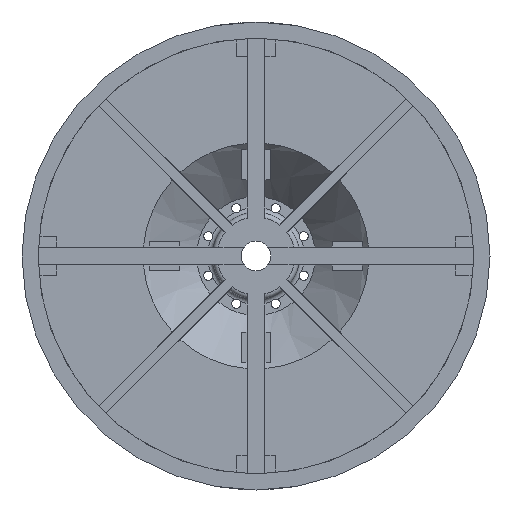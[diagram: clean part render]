
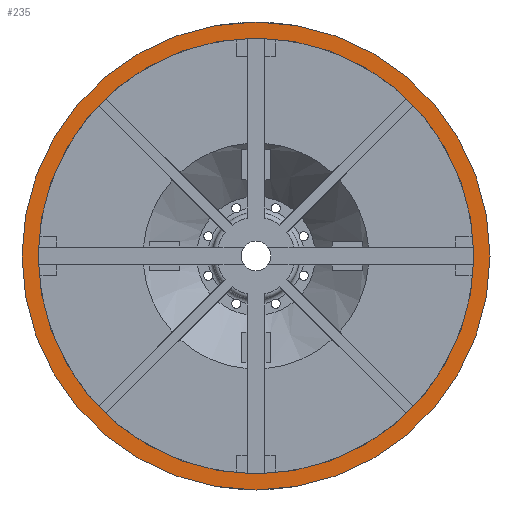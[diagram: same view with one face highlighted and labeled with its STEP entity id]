
A CAD part, front view. The second image highlights one B-rep face of the part: STEP entity #235.
In plain terms, the highlighted planar face has unit normal (0, -1, 0).
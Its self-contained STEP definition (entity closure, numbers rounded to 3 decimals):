
#235 = ADVANCED_FACE( '', ( #675, #676 ), #677, .F. );
#675 = FACE_BOUND( '', #1201, .T. );
#676 = FACE_OUTER_BOUND( '', #1202, .T. );
#677 = PLANE( '', #1203 );
#1201 = EDGE_LOOP( '', ( #2661 ) );
#1202 = EDGE_LOOP( '', ( #2662 ) );
#1203 = AXIS2_PLACEMENT_3D( '', #2663, #2664, #2665 );
#2661 = ORIENTED_EDGE( '', *, *, #3952, .F. );
#2662 = ORIENTED_EDGE( '', *, *, #3449, .T. );
#2663 = CARTESIAN_POINT( '', ( 51., 0., 0. ) );
#2664 = DIRECTION( '', ( 0., 1., 0. ) );
#2665 = DIRECTION( '', ( 0., 0., 1. ) );
#3449 = EDGE_CURVE( '', #4144, #4144, #4145, .T. );
#3952 = EDGE_CURVE( '', #5021, #5021, #5022, .T. );
#4144 = VERTEX_POINT( '', #5415 );
#4145 = CIRCLE( '', #5416, 51. );
#5021 = VERTEX_POINT( '', #7834 );
#5022 = CIRCLE( '', #7835, 47.5 );
#5415 = CARTESIAN_POINT( '', ( 0., 0., -51. ) );
#5416 = AXIS2_PLACEMENT_3D( '', #8285, #8286, #8287 );
#7834 = CARTESIAN_POINT( '', ( 0., 0., -47.5 ) );
#7835 = AXIS2_PLACEMENT_3D( '', #8806, #8807, #8808 );
#8285 = CARTESIAN_POINT( '', ( 0., 0., 0. ) );
#8286 = DIRECTION( '', ( 0., -1., 0. ) );
#8287 = DIRECTION( '', ( 0., 0., -1. ) );
#8806 = CARTESIAN_POINT( '', ( 0., 0., 0. ) );
#8807 = DIRECTION( '', ( 0., -1., 0. ) );
#8808 = DIRECTION( '', ( 0., 0., -1. ) );
